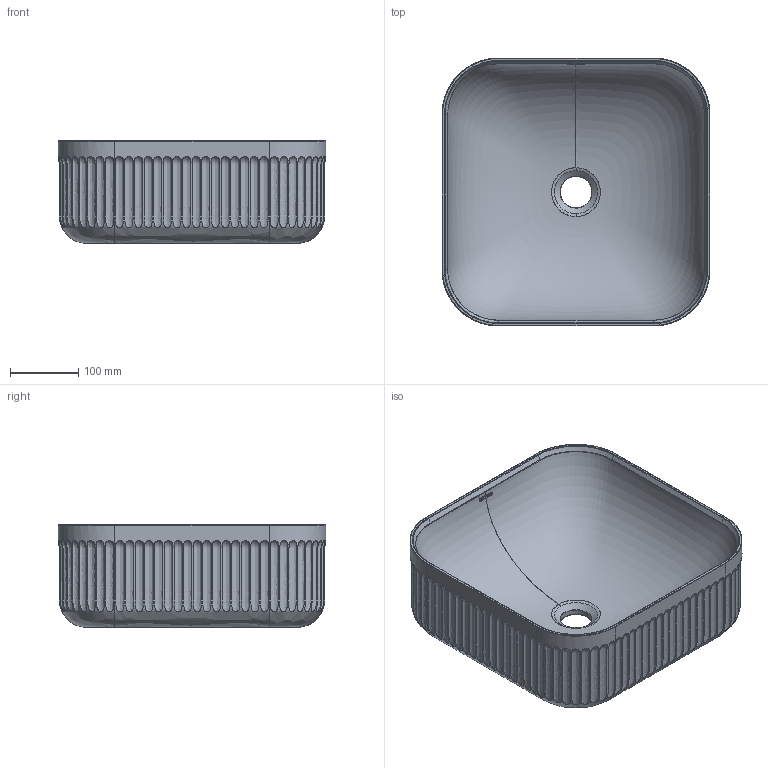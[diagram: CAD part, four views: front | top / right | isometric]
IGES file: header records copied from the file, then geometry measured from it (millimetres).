
Global section: file name: C:\Users\User\Desktop\00602_Striae 39.igs; native system: Rhinoceros ( May  7 2021 ); preprocessor: Trout Lake IGES 012 May  7 2021; date: 231113.153310; units: millimetre
Bounding box: 391.59 x 391.59 x 150 mm (x, y, z)
Surface area: 632823.6 mm2 (no closed solid volume)
Topology: 0 solids, 0 shells, 512 faces, 10967 edges, 10960 vertices
Faces by surface type: bspline 512
